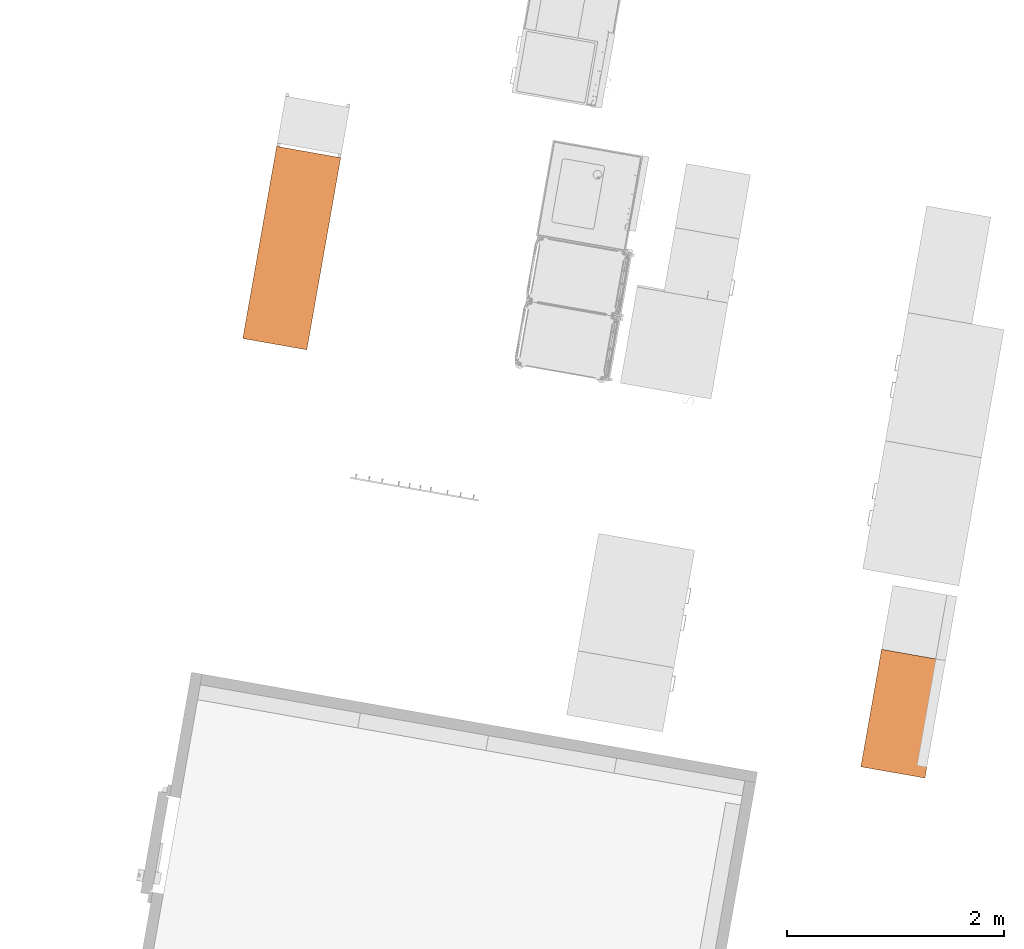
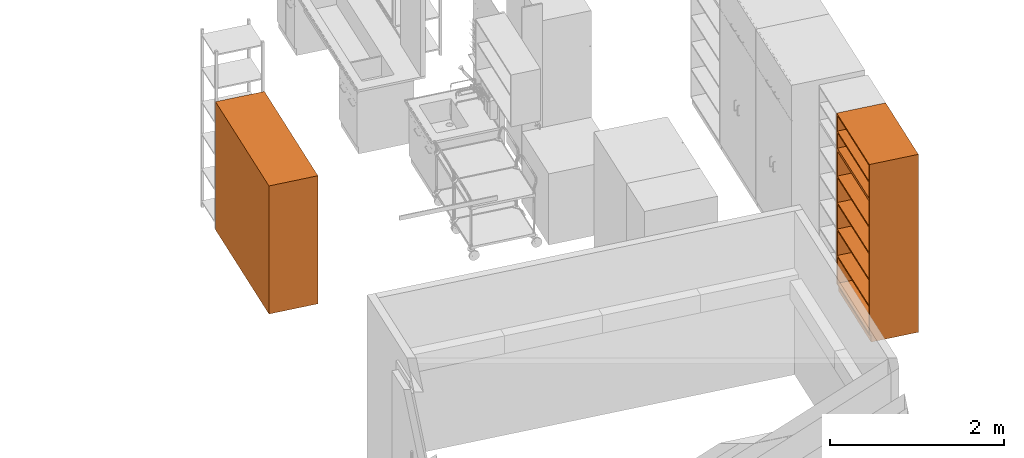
# One storey, part 27 of 32: 2 proxies.
"""IFC2X3 building model written with IfcOpenShell, lengths in metres."""

from ifc_helpers import new_model, entity, si_unit, converted_unit, derived_unit, direction, frame, origin, place, context, subcontext, project, spatial, face_set, faceted_brep, surface_model, source, transform, mapped, material, material_list, type_object, type_shapes, element, save


model = new_model("IFC2X3")

# Units and contexts
model_context = context("Model", 3, precision=1e-05, world=origin(), true_north=direction((6.12303176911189e-17, 1.0)))
body_context = subcontext(model_context, "Body", "Model", "MODEL_VIEW")
ifc_project = project(units=[si_unit("LENGTHUNIT", "METRE"), si_unit("AREAUNIT", "SQUARE_METRE"), si_unit("VOLUMEUNIT", "CUBIC_METRE"), converted_unit("PLANEANGLEUNIT", "DEGREE", entity("IfcRatioMeasure", 0.0174532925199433), si_unit("PLANEANGLEUNIT", "RADIAN"), dimensions=[0, 0, 0, 0, 0, 0, 0]), si_unit("MASSUNIT", "GRAM", prefix="KILO"), derived_unit("MASSDENSITYUNIT", [(si_unit("MASSUNIT", "GRAM", prefix="KILO"), 1), (si_unit("LENGTHUNIT", "METRE"), -3)]), derived_unit("MOMENTOFINERTIAUNIT", [(si_unit("LENGTHUNIT", "METRE"), 4)]), si_unit("TIMEUNIT", "SECOND"), si_unit("FREQUENCYUNIT", "HERTZ"), si_unit("THERMODYNAMICTEMPERATUREUNIT", "DEGREE_CELSIUS"), derived_unit("THERMALTRANSMITTANCEUNIT", [(si_unit("MASSUNIT", "GRAM", prefix="KILO"), 1), (si_unit("THERMODYNAMICTEMPERATUREUNIT", "KELVIN"), -1), (si_unit("TIMEUNIT", "SECOND"), -3)]), derived_unit("VOLUMETRICFLOWRATEUNIT", [(si_unit("LENGTHUNIT", "METRE"), 3), (si_unit("TIMEUNIT", "SECOND"), -1)]), si_unit("ELECTRICCURRENTUNIT", "AMPERE"), si_unit("ELECTRICVOLTAGEUNIT", "VOLT"), si_unit("POWERUNIT", "WATT"), si_unit("FORCEUNIT", "NEWTON", prefix="KILO"), si_unit("ILLUMINANCEUNIT", "LUX"), si_unit("LUMINOUSFLUXUNIT", "LUMEN"), si_unit("LUMINOUSINTENSITYUNIT", "CANDELA"), derived_unit("USERDEFINED", [(si_unit("MASSUNIT", "GRAM", prefix="KILO"), -1), (si_unit("LENGTHUNIT", "METRE"), -2), (si_unit("TIMEUNIT", "SECOND"), 3), (si_unit("LUMINOUSFLUXUNIT", "LUMEN"), 1)]), derived_unit("LINEARVELOCITYUNIT", [(si_unit("LENGTHUNIT", "METRE"), 1), (si_unit("TIMEUNIT", "SECOND"), -1)]), si_unit("PRESSUREUNIT", "PASCAL"), derived_unit("USERDEFINED", [(si_unit("LENGTHUNIT", "METRE"), -2), (si_unit("MASSUNIT", "GRAM", prefix="KILO"), 1), (si_unit("TIMEUNIT", "SECOND"), -2)]), derived_unit("LINEARFORCEUNIT", [(si_unit("MASSUNIT", "GRAM", prefix="KILO"), 1), (si_unit("LENGTHUNIT", "METRE"), 1), (si_unit("TIMEUNIT", "SECOND"), -2), (si_unit("LENGTHUNIT", "METRE"), -1)]), derived_unit("PLANARFORCEUNIT", [(si_unit("MASSUNIT", "GRAM", prefix="KILO"), 1), (si_unit("LENGTHUNIT", "METRE"), 1), (si_unit("TIMEUNIT", "SECOND"), -2), (si_unit("LENGTHUNIT", "METRE"), -2)])], contexts=[model_context])

# Site, building, storey
site_placement = place(None, origin())
site = spatial("IfcSite", under=ifc_project, at=site_placement, Name="Default", CompositionType="ELEMENT")
building_placement = place(site_placement, origin())
building = spatial("IfcBuilding", under=site, at=building_placement, CompositionType="ELEMENT")
storey_placement = place(building_placement, origin())
storey = spatial("IfcBuildingStorey", under=building, at=storey_placement, Name="00 EG", CompositionType="ELEMENT", Elevation=0.0)

# Proxies
ifc_material_1 = material(Name="dh_Weiss")
ifc_material_2 = material(Name="dh_Grau")
ifc_material_list_1 = material_list([ifc_material_1, ifc_material_2])
ifc_material_list_2 = material_list([ifc_material_1, ifc_material_2])
building_element_proxy_type_1 = type_object("IfcBuildingElementProxyType", Name="dh_Laborhochregal:1000x600x2000", PredefinedType="NOTDEFINED", material=ifc_material_list_2)
shared_shape_1 = source(origin(), body_context, "Body", "Brep", [
    faceted_brep([(0.530000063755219, 0.279999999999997, 2.26), (-0.530000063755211, 0.279999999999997, 2.26), (-0.530000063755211, -0.3, 2.26), (0.530000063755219, -0.3, 2.26), (0.530000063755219, 0.279999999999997, 2.24), (0.530000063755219, -0.3, 2.24), (-0.530000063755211, -0.3, 2.24), (-0.530000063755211, 0.279999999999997, 2.24)], [[[0, 1, 2, 3]], [[4, 5, 6, 7]], [[1, 0, 4, 7]], [[2, 1, 7, 6]], [[3, 2, 6, 5]], [[0, 3, 5, 4]]]),
    faceted_brep([(0.550000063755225, -0.3, 2.5), (-0.550000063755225, -0.3, 2.5), (-0.550000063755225, -0.3, 2.0), (0.550000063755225, -0.3, 2.0), (-0.530000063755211, -0.3, 2.48), (0.530000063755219, -0.3, 2.48), (0.530000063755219, -0.3, 2.02), (-0.530000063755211, -0.3, 2.02), (0.550000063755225, 0.3, 2.0), (-0.550000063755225, 0.3, 2.0), (-0.550000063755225, 0.3, 2.5), (0.550000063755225, 0.3, 2.5), (0.530000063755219, 0.279999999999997, 2.02), (-0.530000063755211, 0.279999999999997, 2.02), (-0.530000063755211, 0.279999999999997, 2.48), (0.530000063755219, 0.279999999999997, 2.48)], [[[0, 1, 2, 3], [4, 5, 6, 7]], [[8, 9, 10, 11]], [[0, 3, 8, 11]], [[7, 6, 12, 13]], [[2, 1, 10, 9]], [[3, 2, 9, 8]], [[1, 0, 11, 10]], [[5, 4, 14, 15]], [[4, 7, 13, 14]], [[14, 13, 12, 15]], [[15, 12, 6, 5]]]),
    faceted_brep([(0.530000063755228, 0.279999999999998, 1.628), (-0.530000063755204, 0.279999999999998, 1.628), (-0.530000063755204, -0.3, 1.628), (0.530000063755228, -0.3, 1.628), (0.530000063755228, 0.279999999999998, 1.608), (0.530000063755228, -0.3, 1.608), (-0.530000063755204, -0.3, 1.608), (-0.530000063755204, 0.279999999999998, 1.608)], [[[0, 1, 2, 3]], [[4, 5, 6, 7]], [[1, 0, 4, 7]], [[2, 1, 7, 6]], [[3, 2, 6, 5]], [[0, 3, 5, 4]]]),
    faceted_brep([(0.530000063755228, 0.279999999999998, 1.256), (-0.530000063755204, 0.279999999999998, 1.256), (-0.530000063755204, -0.3, 1.256), (0.530000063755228, -0.3, 1.256), (0.530000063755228, 0.279999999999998, 1.236), (0.530000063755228, -0.3, 1.236), (-0.530000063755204, -0.3, 1.236), (-0.530000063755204, 0.279999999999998, 1.236)], [[[0, 1, 2, 3]], [[4, 5, 6, 7]], [[1, 0, 4, 7]], [[2, 1, 7, 6]], [[3, 2, 6, 5]], [[0, 3, 5, 4]]]),
    faceted_brep([(0.530000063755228, 0.279999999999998, 0.511999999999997), (-0.530000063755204, 0.279999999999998, 0.512), (-0.530000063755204, -0.3, 0.512), (0.530000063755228, -0.3, 0.511999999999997), (0.530000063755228, 0.279999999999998, 0.491999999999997), (0.530000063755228, -0.3, 0.491999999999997), (-0.530000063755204, -0.3, 0.492), (-0.530000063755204, 0.279999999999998, 0.492)], [[[0, 1, 2, 3]], [[4, 5, 6, 7]], [[1, 0, 4, 7]], [[2, 1, 7, 6]], [[3, 2, 6, 5]], [[0, 3, 5, 4]]]),
    faceted_brep([(0.530000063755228, 0.279999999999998, 0.883999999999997), (-0.530000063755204, 0.279999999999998, 0.884), (-0.530000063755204, -0.3, 0.884), (0.530000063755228, -0.3, 0.883999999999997), (0.530000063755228, 0.279999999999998, 0.863999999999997), (0.530000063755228, -0.3, 0.863999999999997), (-0.530000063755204, -0.3, 0.864), (-0.530000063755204, 0.279999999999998, 0.864)], [[[0, 1, 2, 3]], [[4, 5, 6, 7]], [[1, 0, 4, 7]], [[2, 1, 7, 6]], [[3, 2, 6, 5]], [[0, 3, 5, 4]]]),
    faceted_brep([(0.550000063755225, -0.3, 2.0), (-0.550000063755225, -0.3, 2.0), (-0.550000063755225, -0.3, 0.0999999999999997), (0.550000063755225, -0.3, 0.0999999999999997), (-0.530000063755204, -0.3, 1.98), (0.530000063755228, -0.3, 1.98), (0.530000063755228, -0.3, 0.12), (-0.530000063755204, -0.3, 0.12), (0.550000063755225, 0.3, 0.0999999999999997), (-0.550000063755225, 0.3, 0.0999999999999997), (-0.550000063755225, 0.3, 2.0), (0.550000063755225, 0.3, 2.0), (0.530000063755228, 0.279999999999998, 0.12), (-0.530000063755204, 0.279999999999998, 0.12), (-0.530000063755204, 0.279999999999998, 1.98), (0.530000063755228, 0.279999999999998, 1.98)], [[[0, 1, 2, 3], [4, 5, 6, 7]], [[8, 9, 10, 11]], [[0, 3, 8, 11]], [[7, 6, 12, 13]], [[2, 1, 10, 9]], [[3, 2, 9, 8]], [[1, 0, 11, 10]], [[5, 4, 14, 15]], [[4, 7, 13, 14]], [[14, 13, 12, 15]], [[15, 12, 6, 5]]]),
    faceted_brep([(0.550000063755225, 0.3, 0.0999999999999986), (-0.550000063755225, 0.3, 0.0999999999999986), (-0.550000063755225, -0.280000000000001, 0.0999999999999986), (0.550000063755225, -0.280000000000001, 0.0999999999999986), (0.550000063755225, 0.3, 0.0), (0.550000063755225, -0.280000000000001, 0.0), (-0.550000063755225, -0.280000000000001, 0.0), (-0.550000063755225, 0.3, 0.0)], [[[0, 1, 2, 3]], [[4, 5, 6, 7]], [[1, 0, 4, 7]], [[2, 1, 7, 6]], [[3, 2, 6, 5]], [[0, 3, 5, 4]]]),
])
type_shapes(building_element_proxy_type_1, [shared_shape_1])
proxy_1_placement = place(storey_placement, frame((29.8933436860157, 13.4096585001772, 0.0), z_axis=(0.0, 0.0, 1.0), x_axis=(-0.173648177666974, -0.9848077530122, 0.0)))
element("IfcBuildingElementProxy", 1, at=proxy_1_placement, inside=storey, type_object=building_element_proxy_type_1, material=ifc_material_list_1, Name="dh_Laborhochregal:1000x600x2000", ObjectType="dh_Laborhochregal:1000x600x2000", context=body_context, shape_type="MappedRepresentation", body=[
    mapped(shared_shape_1, transform((0.0, 0.0, 0.0), scale=1.0)),
])
ifc_material_3 = material(Name="dh_Stellfläche")
building_element_proxy_type_2 = type_object("IfcBuildingElementProxyType", Name="dh_Gerät_Stellfläche Bestand:Nutzergerät", PredefinedType="NOTDEFINED", material=ifc_material_3)
shared_shape_2 = source(origin(), body_context, "Body", "SurfaceModel", [
    surface_model("IfcFaceBasedSurfaceModel", [(-0.404830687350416, -0.521035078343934, 1.805), (-0.404830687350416, -0.5232623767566, 1.805), (-0.382122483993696, -0.5232623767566, 1.805), (-0.382122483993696, -0.536293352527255, 1.805), (-0.386705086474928, -0.545509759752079, 1.805), (-0.395998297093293, -0.554905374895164, 1.805), (-0.405086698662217, -0.559564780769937, 1.805), (-0.423570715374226, -0.559564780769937, 1.805), (-0.432710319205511, -0.554905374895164, 1.805), (-0.441952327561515, -0.545509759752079, 1.805), (-0.446739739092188, -0.536165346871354, 1.805), (-0.45132234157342, -0.521982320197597, 1.805), (-0.45132234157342, -0.498198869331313, 1.805), (-0.446739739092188, -0.484015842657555, 1.805), (-0.441952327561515, -0.47467142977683, 1.805), (-0.432710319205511, -0.465275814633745, 1.805), (-0.423570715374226, -0.460642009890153, 1.805), (-0.405086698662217, -0.460642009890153, 1.805), (-0.395998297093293, -0.465275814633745, 1.805), (-0.386705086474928, -0.47467142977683, 1.805), (-0.381994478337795, -0.484143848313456, 1.805), (-0.38007439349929, -0.483068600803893, 1.805), (-0.384836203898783, -0.473263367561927, 1.805), (-0.394615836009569, -0.46338133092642, 1.805), (-0.404574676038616, -0.458414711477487, 1.805), (-0.424159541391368, -0.458414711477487, 1.805), (-0.434041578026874, -0.46338133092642, 1.805), (-0.443872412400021, -0.473263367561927, 1.805), (-0.448583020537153, -0.483222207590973, 1.805), (-0.453498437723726, -0.497917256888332, 1.805), (-0.453498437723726, -0.522263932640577, 1.805), (-0.448583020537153, -0.536984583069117, 1.805), (-0.443872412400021, -0.546917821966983, 1.805), (-0.434041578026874, -0.556799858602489, 1.805), (-0.424159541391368, -0.561638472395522, 1.805), (-0.404574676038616, -0.561638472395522, 1.805), (-0.394615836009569, -0.556799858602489, 1.805), (-0.384836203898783, -0.546917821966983, 1.805), (-0.37992078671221, -0.536830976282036, 1.805), (-0.37992078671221, -0.521035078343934, 1.805), (-0.294822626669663, -0.548914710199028, 1.805), (-0.294822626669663, -0.559999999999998, 1.805), (-0.292620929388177, -0.559999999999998, 1.805), (-0.292620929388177, -0.493923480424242, 1.805), (-0.294822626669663, -0.493923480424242, 1.805), (-0.294822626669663, -0.505597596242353, 1.805), (-0.302579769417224, -0.497686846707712, 1.805), (-0.31248740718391, -0.492822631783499, 1.805), (-0.327284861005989, -0.492822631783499, 1.805), (-0.337243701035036, -0.497686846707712, 1.805), (-0.346997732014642, -0.507671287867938, 1.805), (-0.351913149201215, -0.522366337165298, 1.805), (-0.351913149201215, -0.532222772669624, 1.805), (-0.346997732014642, -0.546917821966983, 1.805), (-0.337243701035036, -0.55685106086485, 1.805), (-0.327284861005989, -0.561638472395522, 1.805), (-0.31248740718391, -0.561638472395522, 1.805), (-0.302579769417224, -0.55685106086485, 1.805), (-0.294822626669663, -0.508004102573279, 1.805), (-0.294822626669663, -0.545253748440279, 1.805), (-0.303911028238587, -0.554290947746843, 1.805), (-0.312999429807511, -0.558873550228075, 1.805), (-0.326747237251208, -0.558873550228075, 1.805), (-0.335861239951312, -0.554290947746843, 1.805), (-0.345154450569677, -0.545125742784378, 1.805), (-0.349737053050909, -0.531249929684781, 1.805), (-0.349737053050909, -0.522007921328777, 1.805), (-0.345154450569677, -0.50813210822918, 1.805), (-0.335861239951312, -0.499043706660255, 1.805), (-0.326747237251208, -0.494384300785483, 1.805), (-0.312999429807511, -0.494384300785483, 1.805), (-0.303911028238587, -0.499043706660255, 1.805), (-0.201429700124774, -0.548914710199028, 1.805), (-0.201429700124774, -0.559999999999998, 1.805), (-0.199228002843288, -0.559999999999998, 1.805), (-0.199228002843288, -0.493923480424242, 1.805), (-0.201429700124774, -0.493923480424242, 1.805), (-0.201429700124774, -0.505597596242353, 1.805), (-0.209186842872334, -0.497686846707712, 1.805), (-0.219094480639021, -0.492822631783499, 1.805), (-0.2338919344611, -0.492822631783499, 1.805), (-0.243850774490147, -0.497686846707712, 1.805), (-0.253604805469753, -0.507671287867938, 1.805), (-0.258520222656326, -0.522366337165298, 1.805), (-0.258520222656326, -0.532222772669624, 1.805), (-0.253604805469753, -0.546917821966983, 1.805), (-0.243850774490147, -0.55685106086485, 1.805), (-0.2338919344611, -0.561638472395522, 1.805), (-0.219094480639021, -0.561638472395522, 1.805), (-0.209186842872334, -0.55685106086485, 1.805), (-0.201429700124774, -0.508004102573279, 1.805), (-0.201429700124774, -0.545253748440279, 1.805), (-0.210518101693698, -0.554290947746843, 1.805), (-0.219606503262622, -0.558873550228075, 1.805), (-0.233354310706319, -0.558873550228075, 1.805), (-0.242468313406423, -0.554290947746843, 1.805), (-0.251761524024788, -0.545125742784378, 1.805), (-0.25634412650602, -0.531249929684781, 1.805), (-0.25634412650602, -0.522007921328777, 1.805), (-0.251761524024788, -0.50813210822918, 1.805), (-0.242468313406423, -0.499043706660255, 1.805), (-0.233354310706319, -0.494384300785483, 1.805), (-0.219606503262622, -0.494384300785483, 1.805), (-0.210518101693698, -0.499043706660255, 1.805), (-0.163079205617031, -0.54579137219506, 1.805), (-0.164999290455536, -0.546917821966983, 1.805), (-0.160083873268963, -0.55685106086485, 1.805), (-0.145158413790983, -0.561638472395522, 1.805), (-0.130616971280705, -0.561638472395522, 1.805), (-0.115589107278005, -0.55685106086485, 1.805), (-0.110622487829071, -0.546661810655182, 1.805), (-0.110622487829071, -0.541336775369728, 1.805), (-0.115589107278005, -0.531224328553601, 1.805), (-0.125547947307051, -0.526155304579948, 1.805), (-0.149331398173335, -0.521444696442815, 1.805), (-0.158496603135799, -0.516913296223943, 1.805), (-0.162823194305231, -0.50820891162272, 1.805), (-0.158496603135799, -0.499606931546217, 1.805), (-0.144876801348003, -0.494947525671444, 1.805), (-0.130872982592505, -0.494947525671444, 1.805), (-0.117253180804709, -0.499606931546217, 1.805), (-0.112619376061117, -0.508720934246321, 1.805), (-0.110750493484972, -0.507671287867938, 1.805), (-0.115589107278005, -0.497686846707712, 1.805), (-0.130616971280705, -0.492822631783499, 1.805), (-0.145158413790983, -0.492822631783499, 1.805), (-0.160083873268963, -0.497686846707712, 1.805), (-0.165280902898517, -0.50820891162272, 1.805), (-0.160083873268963, -0.518577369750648, 1.805), (-0.150201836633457, -0.523646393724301, 1.805), (-0.126367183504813, -0.528357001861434, 1.805), (-0.117253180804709, -0.532888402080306, 1.805), (-0.112747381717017, -0.54187439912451, 1.805), (-0.112747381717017, -0.546072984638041, 1.805), (-0.117253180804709, -0.554982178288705, 1.805), (-0.130872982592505, -0.559564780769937, 1.805), (-0.144876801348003, -0.559564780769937, 1.805), (-0.158496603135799, -0.554982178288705, 1.805), (-0.076803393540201, -0.559999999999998, 1.805), (-0.0746784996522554, -0.559999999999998, 1.805), (-0.0746784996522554, -0.541336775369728, 1.805), (-0.0566809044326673, -0.523543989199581, 1.805), (-0.0241930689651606, -0.559999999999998, 1.805), (-0.0225289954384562, -0.558745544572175, 1.805), (-0.0552216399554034, -0.521495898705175, 1.805), (-0.027316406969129, -0.493744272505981, 1.805), (-0.0289036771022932, -0.492157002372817, 1.805), (-0.0746784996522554, -0.537957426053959, 1.805), (-0.0746784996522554, -0.460053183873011, 1.805), (-0.076803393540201, -0.460053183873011, 1.805), (0.00675869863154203, -0.559999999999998, 1.805), (0.00888359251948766, -0.559999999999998, 1.805), (0.00888359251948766, -0.460053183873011, 1.805), (0.00675869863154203, -0.460053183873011, 1.805), (0.100049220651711, -0.543922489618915, 1.805), (0.100049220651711, -0.559999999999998, 1.805), (0.102250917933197, -0.559999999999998, 1.805), (0.102250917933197, -0.492822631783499, 1.805), (0.100049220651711, -0.492822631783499, 1.805), (0.100049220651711, -0.540031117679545, 1.805), (0.0861734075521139, -0.553778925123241, 1.805), (0.0770850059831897, -0.558361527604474, 1.805), (0.063337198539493, -0.558361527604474, 1.805), (0.0545048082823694, -0.553906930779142, 1.805), (0.049845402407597, -0.540287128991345, 1.805), (0.049845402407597, -0.492822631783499, 1.805), (0.0477205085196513, -0.492822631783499, 1.805), (0.0477205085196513, -0.541413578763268, 1.805), (0.0525847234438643, -0.556646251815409, 1.805), (0.0627995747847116, -0.561638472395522, 1.805), (0.0776226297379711, -0.561638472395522, 1.805), (0.0875814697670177, -0.556774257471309, 1.805), (0.141113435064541, -0.559999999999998, 1.805), (0.143238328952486, -0.559999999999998, 1.805), (0.143238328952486, -0.4933346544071, 1.805), (0.141113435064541, -0.4933346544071, 1.805), (0.179361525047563, -0.54579137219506, 1.805), (0.177441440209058, -0.546917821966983, 1.805), (0.182356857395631, -0.55685106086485, 1.805), (0.19728231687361, -0.561638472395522, 1.805), (0.211823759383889, -0.561638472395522, 1.805), (0.226851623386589, -0.55685106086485, 1.805), (0.231818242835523, -0.546661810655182, 1.805), (0.231818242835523, -0.541336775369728, 1.805), (0.226851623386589, -0.531224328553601, 1.805), (0.216892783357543, -0.526155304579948, 1.805), (0.193109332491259, -0.521444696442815, 1.805), (0.183944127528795, -0.516913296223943, 1.805), (0.179617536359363, -0.50820891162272, 1.805), (0.183944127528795, -0.499606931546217, 1.805), (0.197563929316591, -0.494947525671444, 1.805), (0.211567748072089, -0.494947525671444, 1.805), (0.225187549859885, -0.499606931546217, 1.805), (0.229821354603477, -0.508720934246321, 1.805), (0.231690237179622, -0.507671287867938, 1.805), (0.226851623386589, -0.497686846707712, 1.805), (0.211823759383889, -0.492822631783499, 1.805), (0.19728231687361, -0.492822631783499, 1.805), (0.182356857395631, -0.497686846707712, 1.805), (0.177159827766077, -0.50820891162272, 1.805), (0.182356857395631, -0.518577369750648, 1.805), (0.192238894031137, -0.523646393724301, 1.805), (0.216073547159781, -0.528357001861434, 1.805), (0.225187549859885, -0.532888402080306, 1.805), (0.229693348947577, -0.54187439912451, 1.805), (0.229693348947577, -0.546072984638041, 1.805), (0.225187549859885, -0.554982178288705, 1.805), (0.211567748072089, -0.559564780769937, 1.805), (0.197563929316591, -0.559564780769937, 1.805), (0.183944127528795, -0.554982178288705, 1.805), (0.252708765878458, -0.592231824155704, 1.805), (0.252708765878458, -0.59440792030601, 1.805), (0.262257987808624, -0.59440792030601, 1.805), (0.272421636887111, -0.589364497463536, 1.805), (0.277337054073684, -0.574439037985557, 1.805), (0.277337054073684, -0.49348826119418, 1.805), (0.275135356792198, -0.49348826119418, 1.805), (0.275135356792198, -0.574157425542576, 1.805), (0.270501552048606, -0.587700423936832, 1.805), (0.261669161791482, -0.592231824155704, 1.805), (0.369065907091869, -0.547199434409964, 1.805), (0.367401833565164, -0.545535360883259, 1.805), (0.358031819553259, -0.554982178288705, 1.805), (0.348943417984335, -0.559564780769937, 1.805), (0.335195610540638, -0.559564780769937, 1.805), (0.326081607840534, -0.554982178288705, 1.805), (0.316788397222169, -0.54579137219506, 1.805), (0.312205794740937, -0.531889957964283, 1.805), (0.312205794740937, -0.523646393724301, 1.805), (0.36932191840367, -0.523646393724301, 1.805), (0.36932191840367, -0.512714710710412, 1.805), (0.364406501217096, -0.502730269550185, 1.805), (0.359363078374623, -0.497686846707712, 1.805), (0.349455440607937, -0.492822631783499, 1.805), (0.334657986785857, -0.492822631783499, 1.805), (0.324699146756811, -0.497686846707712, 1.805), (0.314945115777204, -0.507671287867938, 1.805), (0.310029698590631, -0.522366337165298, 1.805), (0.310029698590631, -0.532222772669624, 1.805), (0.314945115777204, -0.546917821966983, 1.805), (0.324699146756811, -0.55685106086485, 1.805), (0.334657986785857, -0.561638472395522, 1.805), (0.349455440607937, -0.561638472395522, 1.805), (0.359363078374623, -0.55685106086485, 1.805), (0.312615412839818, -0.521444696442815, 1.805), (0.316788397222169, -0.508746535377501, 1.805), (0.326081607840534, -0.499658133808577, 1.805), (0.335195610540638, -0.494998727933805, 1.805), (0.348943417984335, -0.494998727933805, 1.805), (0.358031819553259, -0.499658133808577, 1.805), (0.362537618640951, -0.504163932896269, 1.805), (0.367120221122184, -0.513277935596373, 1.805), (0.367120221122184, -0.521444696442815, 1.805), (0.400555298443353, -0.54579137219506, 1.805), (0.398635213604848, -0.546917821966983, 1.805), (0.403550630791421, -0.55685106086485, 1.805), (0.418476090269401, -0.561638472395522, 1.805), (0.43301753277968, -0.561638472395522, 1.805), (0.44804539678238, -0.55685106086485, 1.805), (0.453012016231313, -0.546661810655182, 1.805), (0.453012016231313, -0.541336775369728, 1.805), (0.44804539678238, -0.531224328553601, 1.805), (0.438086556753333, -0.526155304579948, 1.805), (0.41430310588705, -0.521444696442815, 1.805), (0.405137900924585, -0.516913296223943, 1.805), (0.400811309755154, -0.50820891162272, 1.805), (0.405137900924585, -0.499606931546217, 1.805), (0.418757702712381, -0.494947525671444, 1.805), (0.432761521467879, -0.494947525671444, 1.805), (0.446381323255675, -0.499606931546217, 1.805), (0.451015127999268, -0.508720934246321, 1.805), (0.452884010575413, -0.507671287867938, 1.805), (0.44804539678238, -0.497686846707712, 1.805), (0.43301753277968, -0.492822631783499, 1.805), (0.418476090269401, -0.492822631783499, 1.805), (0.403550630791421, -0.497686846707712, 1.805), (0.398353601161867, -0.50820891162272, 1.805), (0.403550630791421, -0.518577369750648, 1.805), (0.413432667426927, -0.523646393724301, 1.805), (0.437267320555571, -0.528357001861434, 1.805), (0.446381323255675, -0.532888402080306, 1.805), (0.450887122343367, -0.54187439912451, 1.805), (0.450887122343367, -0.546072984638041, 1.805), (0.446381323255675, -0.554982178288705, 1.805), (0.432761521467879, -0.559564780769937, 1.805), (0.418757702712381, -0.559564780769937, 1.805), (0.405137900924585, -0.554982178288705, 1.805), (0.276210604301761, -0.47088246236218, 1.805), (0.282508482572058, -0.464661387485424, 1.805), (0.276210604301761, -0.458414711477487, 1.805), (0.269963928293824, -0.464661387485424, 1.805), (0.276210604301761, -0.468040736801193, 1.805), (0.272959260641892, -0.464789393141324, 1.805), (0.276210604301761, -0.461512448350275, 1.805), (0.27953875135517, -0.464789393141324, 1.805), (0.142188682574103, -0.47088246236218, 1.805), (0.14843535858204, -0.464661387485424, 1.805), (0.142188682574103, -0.458414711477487, 1.805), (0.135942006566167, -0.464661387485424, 1.805), (0.142188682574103, -0.468040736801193, 1.805), (0.138937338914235, -0.464789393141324, 1.805), (0.142188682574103, -0.461512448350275, 1.805), (0.145440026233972, -0.464789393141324, 1.805), (0.899999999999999, 0.0, 1.8), (0.899999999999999, -0.599999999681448, 1.8), (-0.899999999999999, -0.599999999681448, 1.8), (-0.899999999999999, 0.0, 1.8), (0.899999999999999, 0.0, 0.0), (0.899999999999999, -0.599999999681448, 0.0), (-0.899999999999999, -0.599999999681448, 0.0), (-0.899999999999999, 0.0, 0.0)], [face_set([[[0, 1, 2, 3, 4, 5, 6, 7, 8, 9, 10, 11, 12, 13, 14, 15, 16, 17, 18, 19, 20, 21, 22, 23, 24, 25, 26, 27, 28, 29, 30, 31, 32, 33, 34, 35, 36, 37, 38, 39]]]), face_set([[[40, 41, 42, 43, 44, 45, 46, 47, 48, 49, 50, 51, 52, 53, 54, 55, 56, 57], [58, 59, 60, 61, 62, 63, 64, 65, 66, 67, 68, 69, 70, 71]]]), face_set([[[72, 73, 74, 75, 76, 77, 78, 79, 80, 81, 82, 83, 84, 85, 86, 87, 88, 89], [90, 91, 92, 93, 94, 95, 96, 97, 98, 99, 100, 101, 102, 103]]]), face_set([[[104, 105, 106, 107, 108, 109, 110, 111, 112, 113, 114, 115, 116, 117, 118, 119, 120, 121, 122, 123, 124, 125, 126, 127, 128, 129, 130, 131, 132, 133, 134, 135, 136, 137]]]), face_set([[[138, 139, 140, 141, 142, 143, 144, 145, 146, 147, 148, 149]]]), face_set([[[150, 151, 152, 153]]]), face_set([[[154, 155, 156, 157, 158, 159, 160, 161, 162, 163, 164, 165, 166, 167, 168, 169, 170, 171]]]), face_set([[[172, 173, 174, 175]]]), face_set([[[176, 177, 178, 179, 180, 181, 182, 183, 184, 185, 186, 187, 188, 189, 190, 191, 192, 193, 194, 195, 196, 197, 198, 199, 200, 201, 202, 203, 204, 205, 206, 207, 208, 209]]]), face_set([[[210, 211, 212, 213, 214, 215, 216, 217, 218, 219]]]), face_set([[[220, 221, 222, 223, 224, 225, 226, 227, 228, 229, 230, 231, 232, 233, 234, 235, 236, 237, 238, 239, 240, 241, 242, 243], [244, 245, 246, 247, 248, 249, 250, 251, 252]]]), face_set([[[253, 254, 255, 256, 257, 258, 259, 260, 261, 262, 263, 264, 265, 266, 267, 268, 269, 270, 271, 272, 273, 274, 275, 276, 277, 278, 279, 280, 281, 282, 283, 284, 285, 286]]]), face_set([[[287, 288, 289, 290], [291, 292, 293, 294]]]), face_set([[[295, 296, 297, 298], [299, 300, 301, 302]]]), face_set([[[303, 304, 305, 306]], [[307, 308, 309, 310]], [[306, 303, 307, 310]], [[305, 306, 310, 309]], [[304, 308, 309, 305]], [[303, 304, 308, 307]]])]),
])
type_shapes(building_element_proxy_type_2, [shared_shape_2])
proxy_2_placement = place(storey_placement, frame((23.9579690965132, 17.7563616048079, 0.0), z_axis=(0.0, 0.0, 1.0), x_axis=(0.173648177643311, 0.984807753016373, 0.0)))
element("IfcBuildingElementProxy", 2, at=proxy_2_placement, inside=storey, type_object=building_element_proxy_type_2, material=ifc_material_3, Name="dh_Gerät_Stellfläche Bestand:Nutzergerät", ObjectType="dh_Gerät_Stellfläche Bestand:Nutzergerät", context=body_context, shape_type="MappedRepresentation", body=[
    mapped(shared_shape_2, transform((0.0, 0.0, 0.0), scale=1.0)),
])

save(model, "model.ifc")
